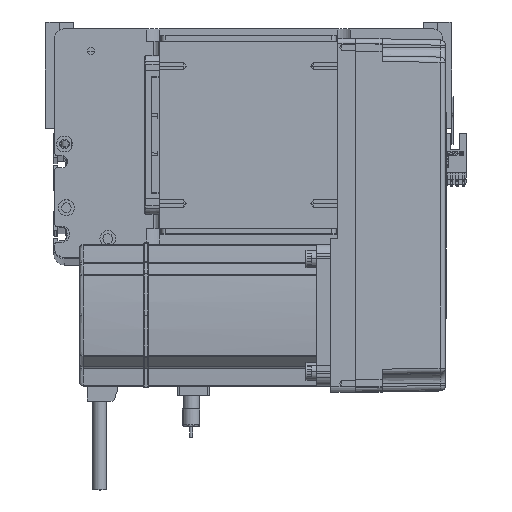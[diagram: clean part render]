
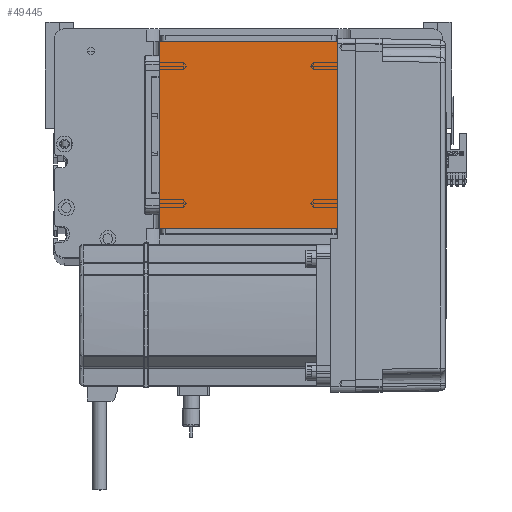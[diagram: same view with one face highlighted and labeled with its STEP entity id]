
A CAD part, top view. The second image highlights one B-rep face of the part: STEP entity #49445.
In plain terms, the highlighted planar face has unit normal (0, 0, 1).
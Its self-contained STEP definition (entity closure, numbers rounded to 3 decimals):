
#840 = VERTEX_POINT ( 'NONE', #46979 ) ;
#3183 = CARTESIAN_POINT ( 'NONE',  ( -50.5, 16., 115. ) ) ;
#3660 = EDGE_CURVE ( 'NONE', #840, #37242, #14037, .T. ) ;
#4789 = DIRECTION ( 'NONE',  ( 0., 1., 0. ) ) ;
#4964 = LINE ( 'NONE', #39761, #17520 ) ;
#9119 = AXIS2_PLACEMENT_3D ( 'NONE', #33799, #21178, #46793 ) ;
#11070 = VERTEX_POINT ( 'NONE', #21881 ) ;
#11082 = ORIENTED_EDGE ( 'NONE', *, *, #17762, .T. ) ;
#11397 = VECTOR ( 'NONE', #11858, 1000. ) ;
#11858 = DIRECTION ( 'NONE',  ( 1., 0., 0. ) ) ;
#12236 = EDGE_CURVE ( 'NONE', #38324, #11070, #41242, .T. ) ;
#12533 = PLANE ( 'NONE',  #9119 ) ;
#14037 = LINE ( 'NONE', #38822, #17344 ) ;
#17344 = VECTOR ( 'NONE', #43082, 1000. ) ;
#17520 = VECTOR ( 'NONE', #43988, 1000. ) ;
#17762 = EDGE_CURVE ( 'NONE', #37242, #38324, #4964, .T. ) ;
#18966 = FACE_OUTER_BOUND ( 'NONE', #33811, .T. ) ;
#20903 = ORIENTED_EDGE ( 'NONE', *, *, #12236, .T. ) ;
#21178 = DIRECTION ( 'NONE',  ( 0., 0., 1. ) ) ;
#21881 = CARTESIAN_POINT ( 'NONE',  ( 50.5, 16., 115. ) ) ;
#22871 = CARTESIAN_POINT ( 'NONE',  ( -50.5, 16., 115. ) ) ;
#25663 = EDGE_CURVE ( 'NONE', #11070, #840, #53471, .T. ) ;
#27971 = CARTESIAN_POINT ( 'NONE',  ( -50.5, 122., 115. ) ) ;
#33799 = CARTESIAN_POINT ( 'NONE',  ( 0., 0., 115. ) ) ;
#33811 = EDGE_LOOP ( 'NONE', ( #11082, #20903, #51827, #47402 ) ) ;
#37242 = VERTEX_POINT ( 'NONE', #27971 ) ;
#38324 = VERTEX_POINT ( 'NONE', #22871 ) ;
#38822 = CARTESIAN_POINT ( 'NONE',  ( -50.5, 122., 115. ) ) ;
#39761 = CARTESIAN_POINT ( 'NONE',  ( -50.5, 122., 115. ) ) ;
#41242 = LINE ( 'NONE', #3183, #11397 ) ;
#42247 = VECTOR ( 'NONE', #4789, 1000. ) ;
#42944 = CARTESIAN_POINT ( 'NONE',  ( 50.5, 122., 115. ) ) ;
#43082 = DIRECTION ( 'NONE',  ( -1., 0., 0. ) ) ;
#43988 = DIRECTION ( 'NONE',  ( 0., -1., 0. ) ) ;
#46793 = DIRECTION ( 'NONE',  ( 1., 0., 0. ) ) ;
#46979 = CARTESIAN_POINT ( 'NONE',  ( 50.5, 122., 115. ) ) ;
#47402 = ORIENTED_EDGE ( 'NONE', *, *, #3660, .T. ) ;
#49445 = ADVANCED_FACE ( 'NONE', ( #18966 ), #12533, .T. ) ;
#51827 = ORIENTED_EDGE ( 'NONE', *, *, #25663, .T. ) ;
#53471 = LINE ( 'NONE', #42944, #42247 ) ;
